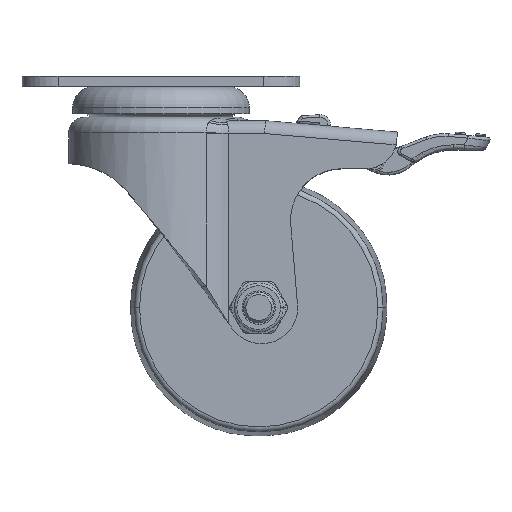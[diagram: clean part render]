
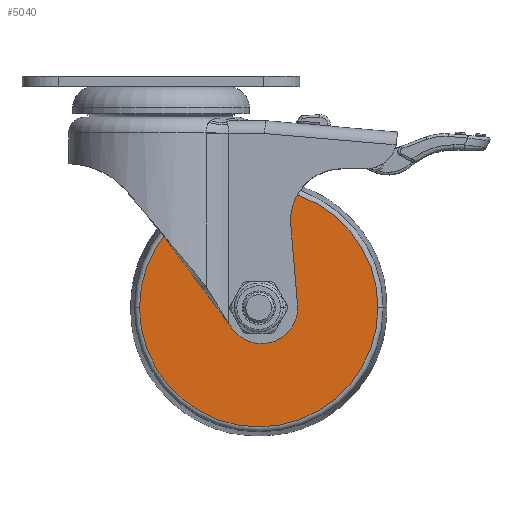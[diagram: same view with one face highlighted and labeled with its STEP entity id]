
A CAD part, top view. The second image highlights one B-rep face of the part: STEP entity #5040.
In plain terms, the highlighted planar face has unit normal (0, 0, 1) as drawn and (1, 0, 0) by its records, which use the part's own axes.
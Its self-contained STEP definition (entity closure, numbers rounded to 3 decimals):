
#4703=CARTESIAN_POINT('',(10.,0.,0.));
#4704=DIRECTION('',(-1.,0.,0.));
#4705=DIRECTION('',(0.,1.,0.));
#4706=AXIS2_PLACEMENT_3D('',#4703,#4704,#4705);
#4708=CARTESIAN_POINT('',(10.,0.,0.));
#4709=DIRECTION('',(1.,0.,0.));
#4710=DIRECTION('',(0.,1.,0.));
#4711=AXIS2_PLACEMENT_3D('',#4708,#4709,#4710);
#4713=CARTESIAN_POINT('',(10.,0.,0.));
#4714=DIRECTION('',(1.,0.,0.));
#4715=DIRECTION('',(0.,1.,0.));
#4716=AXIS2_PLACEMENT_3D('',#4713,#4714,#4715);
#4728=CARTESIAN_POINT('',(10.,0.,0.));
#4729=DIRECTION('',(-1.,0.,0.));
#4730=DIRECTION('',(0.,1.,0.));
#4731=AXIS2_PLACEMENT_3D('',#4728,#4729,#4730);
#4875=CARTESIAN_POINT('',(10.,6.353,0.));
#4876=VERTEX_POINT('',#4875);
#4895=CARTESIAN_POINT('',(10.,-6.353,0.));
#4896=VERTEX_POINT('',#4895);
#4907=CARTESIAN_POINT('',(10.,23.166,0.));
#4909=VERTEX_POINT('',#4907);
#4915=CARTESIAN_POINT('',(10.,-23.166,0.));
#4917=VERTEX_POINT('',#4915);
#5025=CARTESIAN_POINT('',(10.,0.,0.));
#5026=DIRECTION('',(1.,0.,0.));
#5027=DIRECTION('',(0.,-1.,0.));
#5028=AXIS2_PLACEMENT_3D('',#5025,#5026,#5027);
#5029=PLANE('',#5028);
#5031=ORIENTED_EDGE('',*,*,#5030,.F.);
#5033=ORIENTED_EDGE('',*,*,#5032,.T.);
#5034=EDGE_LOOP('',(#5031,#5033));
#5035=FACE_OUTER_BOUND('',#5034,.F.);
#5036=ORIENTED_EDGE('',*,*,#5004,.F.);
#5037=ORIENTED_EDGE('',*,*,#5020,.T.);
#5038=EDGE_LOOP('',(#5036,#5037));
#5039=FACE_BOUND('',#5038,.F.);
#4707=CIRCLE('',#4706,6.353);
#4712=CIRCLE('',#4711,6.353);
#4717=CIRCLE('',#4716,23.166);
#4732=CIRCLE('',#4731,23.166);
#5004=EDGE_CURVE('',#4876,#4896,#4707,.T.);
#5020=EDGE_CURVE('',#4876,#4896,#4712,.T.);
#5030=EDGE_CURVE('',#4909,#4917,#4717,.T.);
#5032=EDGE_CURVE('',#4909,#4917,#4732,.T.);
#5040=ADVANCED_FACE('',(#5035,#5039),#5029,.T.);
